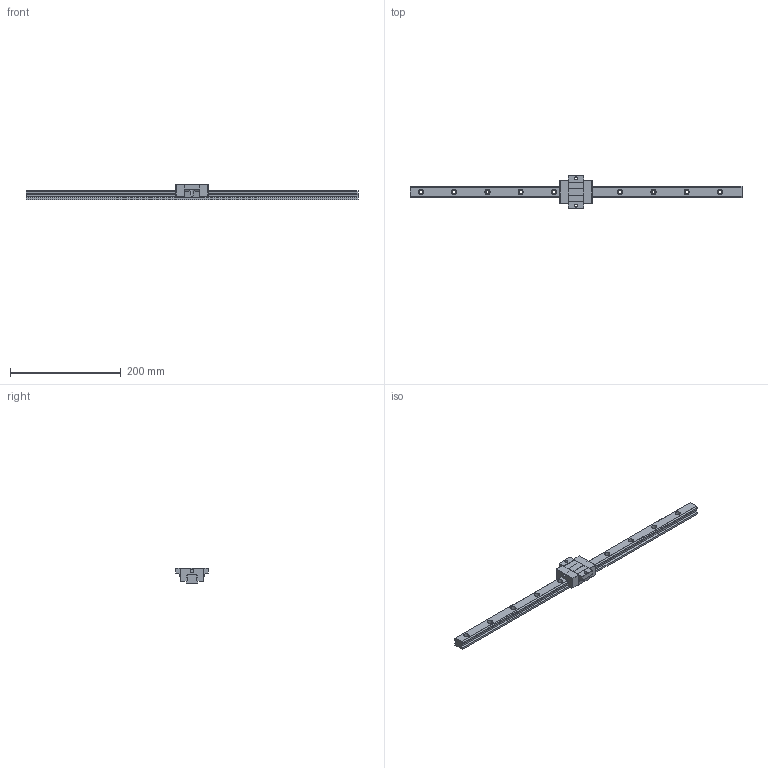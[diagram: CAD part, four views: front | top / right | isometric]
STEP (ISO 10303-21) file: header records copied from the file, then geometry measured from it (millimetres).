
FILE_DESCRIPTION (( 'STEP AP203' ), '1' );
FILE_NAME ('TRS20FS-ZN-§ï.STEP', '2023-08-31T06:10:01', ( '' ), ( '' ), 'SwSTEP 2.0', 'SolidWorks 2022', '' );
FILE_SCHEMA (( 'CONFIG_CONTROL_DESIGN' ));
Length unit declared in the file: millimetre
Products named in the file (1): TRS20FS-ZN-改
Bounding box: 600 x 59 x 28 mm (x, y, z)
Volume: 214827.6 mm3; surface area: 59089.6 mm2
Topology: 1 solids, 1 shells, 207 faces, 558 edges, 360 vertices
Faces by surface type: cylinder 104, plane 99, sphere 4
Entity records: 6795 total; most frequent: CARTESIAN_POINT 1348, DIRECTION 1150, ORIENTED_EDGE 1108, EDGE_CURVE 554, AXIS2_PLACEMENT_3D 402, VERTEX_POINT 360, LINE 346, VECTOR 346
